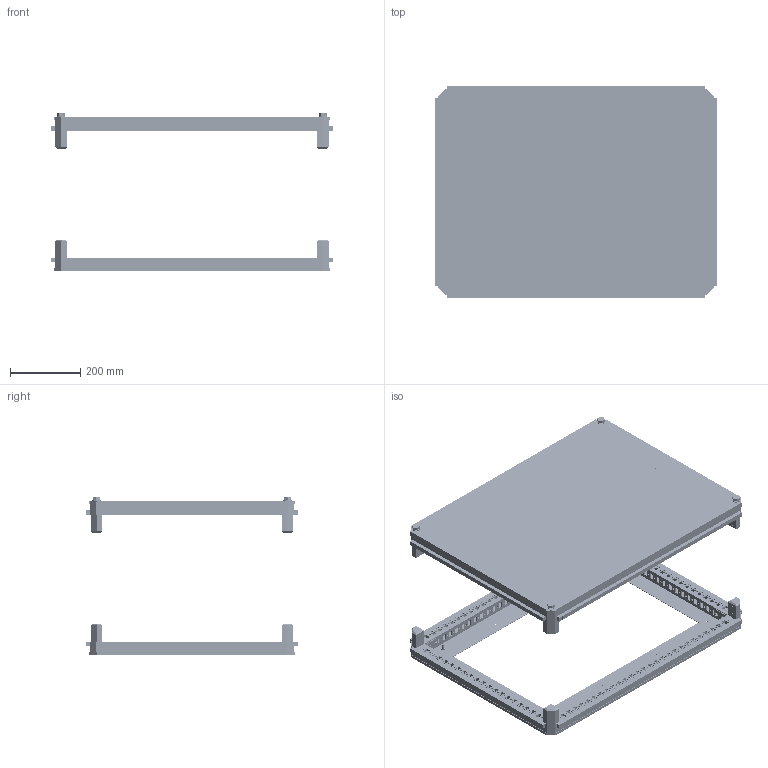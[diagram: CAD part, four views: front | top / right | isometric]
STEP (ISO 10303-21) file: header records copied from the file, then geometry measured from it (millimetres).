
FILE_DESCRIPTION (( 'STEP AP214' ), '1' );
FILE_NAME ('FO-00-KOF-060-080 Êðûøà è îñíîâàíèå (ïîä ôëàíåö) 600õ800 ìì.STEP', '2025-08-25T11:59:19', ( '' ), ( '' ), 'SwSTEP 2.0', 'SolidWorks 2023', '' );
FILE_SCHEMA (( 'AUTOMOTIVE_DESIGN' ));
Length unit declared in the file: millimetre
Products named in the file (3): Основание под фланец 600х800; Крыша под фланец  600х800; FO-00-KOF-060-080 Крыша и основание (под фланец) 600х800 мм
Assembly tree (2 placements, depth 2):
  FO-00-KOF-060-080 Крыша и основание (под фланец) 600х800 мм
    Крыша под фланец  600х800
    Основание под фланец 600х800
Bounding box: 800 x 600 x 446.9 mm (x, y, z)
Volume: 3665275.1 mm3; surface area: 2829060 mm2
Topology: 2 solids, 58 shells, 5002 faces, 13943 edges, 9242 vertices
Faces by surface type: plane 3026, cylinder 1576, cone 208, bspline 192
Entity records: 167635 total; most frequent: CARTESIAN_POINT 35840, ORIENTED_EDGE 27886, DIRECTION 26074, EDGE_CURVE 13943, VECTOR 9436, LINE 9436, VERTEX_POINT 9242, AXIS2_PLACEMENT_3D 8319
